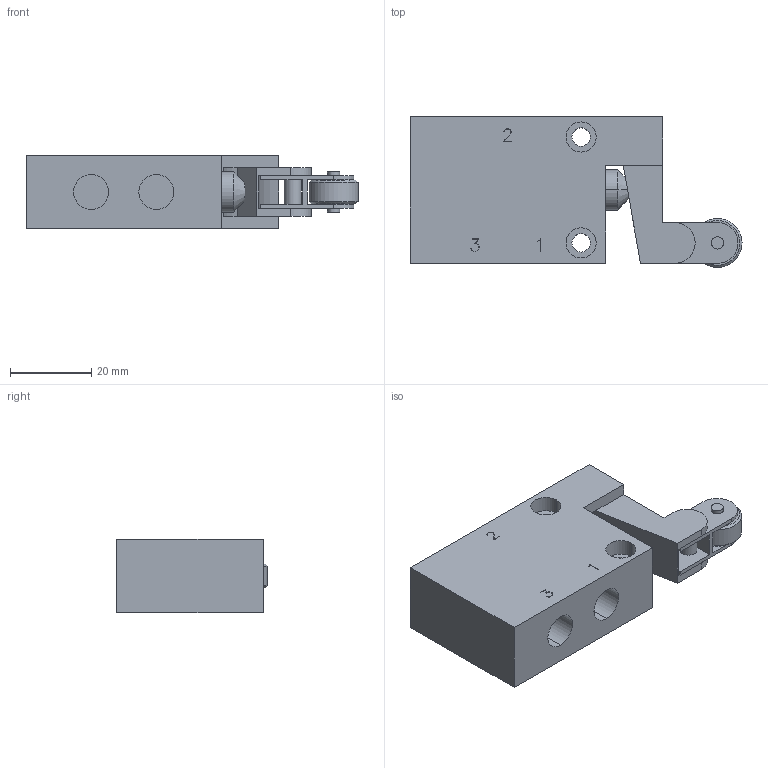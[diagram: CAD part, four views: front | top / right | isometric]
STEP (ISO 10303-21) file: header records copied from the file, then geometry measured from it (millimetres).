
FILE_DESCRIPTION (( 'STEP AP203' ), '1' );
FILE_NAME ('EL-18-310-Airtec.step', '2006-10-17T15:21:36', ( 'Gustaf Hederström' ), ( 'Cevican AB' ), 'SwSTEP 2.0', 'SolidWorks 2002308', '' );
FILE_SCHEMA (( 'CONFIG_CONTROL_DESIGN' ));
Length unit declared in the file: millimetre
Products named in the file (1): EL-18-310-Airtec
Bounding box: 81.5 x 37 x 18 mm (x, y, z)
Volume: 34298.2 mm3; surface area: 11546.4 mm2
Topology: 1 solids, 1 shells, 237 faces, 648 edges, 428 vertices
Faces by surface type: plane 189, cylinder 42, cone 6
Entity records: 7518 total; most frequent: CARTESIAN_POINT 1323, ORIENTED_EDGE 1296, DIRECTION 1210, EDGE_CURVE 648, LINE 558, VECTOR 558, VERTEX_POINT 428, AXIS2_PLACEMENT_3D 326
